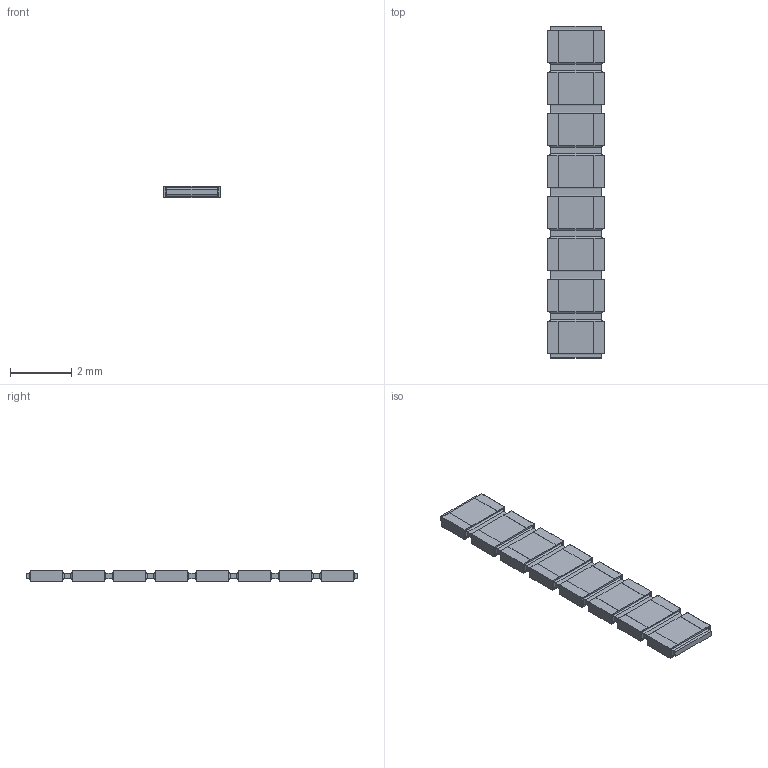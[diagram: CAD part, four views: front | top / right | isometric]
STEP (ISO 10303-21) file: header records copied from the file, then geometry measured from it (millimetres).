
FILE_DESCRIPTION(/* description */ (''),/* implementation_level */ '2;1');
FILE_NAME(/* name */ 'S:\DOCUMENT\AUTOCAD\3D_Modèles\10_3D-pour-VISHAY-COM\PRA\PRAHR135I8_B.stp',/* time_stamp */ '2018-02-02T10:51:53+01:00',/* author */ ('dparmentier'),/* organization */ ('unknown'),/* preprocessor_version */ 'ST-DEVELOPER v17',/* originating_system */ 'Autodesk Inventor 2018',/* authorisation */ '');
FILE_SCHEMA (('AUTOMOTIVE_DESIGN { 1 0 10303 214 3 1 1 }'));
Length unit declared in the file: millimetre
Products named in the file (1): PRAHR135I8_B
Bounding box: 1.85 x 10.8 x 0.38 mm (x, y, z)
Volume: 6.6 mm3; surface area: 87 mm2
Topology: 17 solids, 17 shells, 310 faces, 716 edges, 456 vertices
Faces by surface type: plane 246, cylinder 64
Entity records: 8609 total; most frequent: CARTESIAN_POINT 1483, ORIENTED_EDGE 1432, DIRECTION 1402, EDGE_CURVE 716, LINE 652, VECTOR 652, VERTEX_POINT 456, AXIS2_PLACEMENT_3D 375
